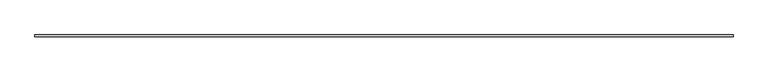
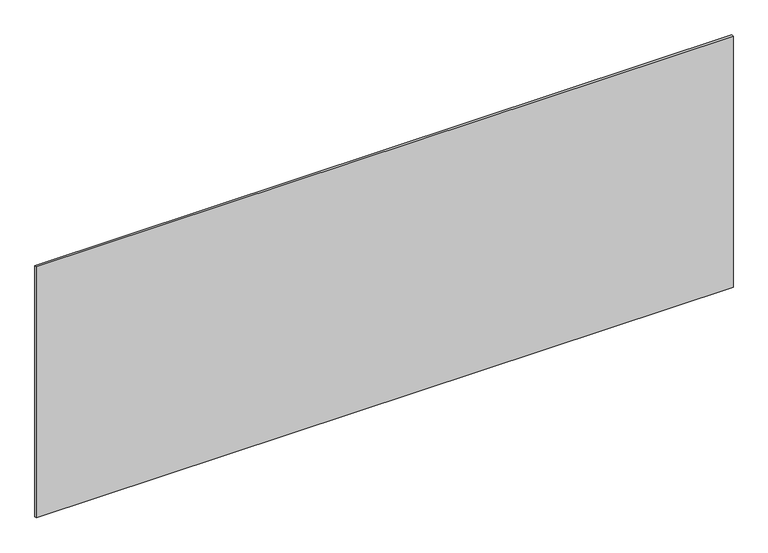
"""IFC4 building model written with IfcOpenShell, lengths in millimetres: plate geometry, システム パネル : 標準."""

from ifc_helpers import new_model, si_unit, origin, origin_with_axes, place, context, project, spatial, polyline, outline, extrude, source, transform, mapped, element, save


def plate_09a63815(model_context):
    return source(origin(), model_context, "Body", "SweptSolid", [
        extrude(outline(polyline([(1697.5, -5.0), (-1697.5, -5.0), (-1697.5, 5.0), (1697.5, 5.0), (1697.5, -5.0)])), origin_with_axes(), (0.0, 0.0, 1.0), 1292.4387729),
    ])


if __name__ == "__main__":
    model = new_model("IFC4")
    model_context = context("Model", 3, world=origin())
    ifc_project = project(units=[si_unit("LENGTHUNIT", "METRE", prefix="MILLI")], contexts=[model_context])
    site = spatial("IfcSite", under=ifc_project)
    building = spatial("IfcBuilding", under=site)
    placement = place(None, origin())
    plate_shape = plate_09a63815(model_context)
    element("IfcPlate", 1, ObjectType="システム パネル : 標準", at=placement, inside=building, context=model_context, shape_type="MappedRepresentation", body=[
        mapped(plate_shape, transform((0.0, 0.0, 0.0), x_axis=(1.0, 0.0, 0.0), y_axis=(0.0, 1.0, 0.0), z_axis=(0.0, 0.0, 1.0))),
    ])
    save(model, "model.ifc")
